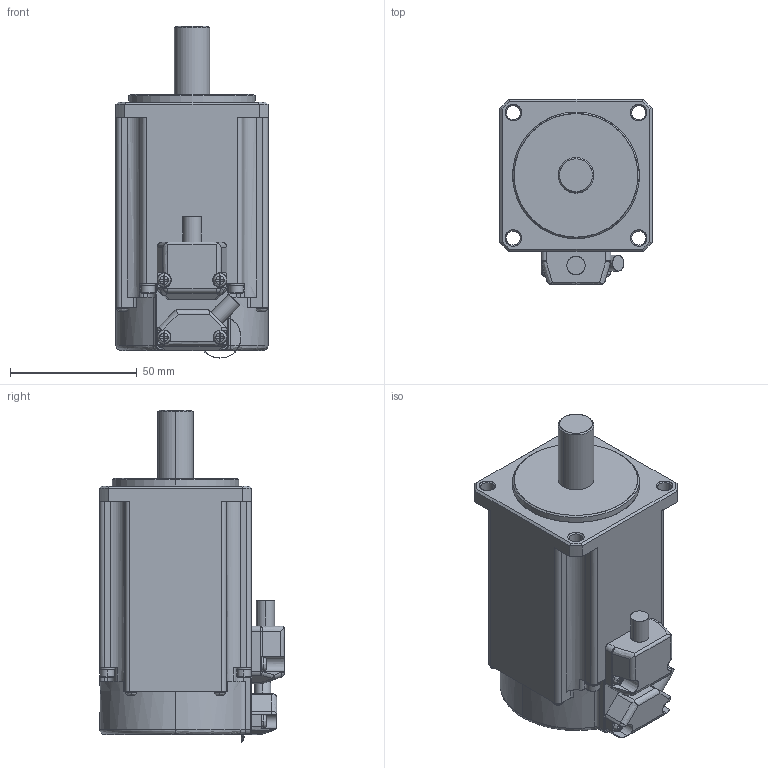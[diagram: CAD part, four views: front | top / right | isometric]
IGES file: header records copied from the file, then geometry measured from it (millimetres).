
Start section: SolidWorks IGES file using analytic representation for surfaces
Global section: file name: C:\Users\render\Documents\CAD Files\TamagawaMotors\TBL-iII-Series-14.5~80\TS4609\TS4609-N1000.IGS; native system: SolidWorks 2009; preprocessor: SolidWorks 2009; author: render; date: 100804.103145; units: millimetre
Bounding box: 60 x 73 x 131.04 mm (x, y, z)
Surface area: 33147.4 mm2 (no closed solid volume)
Topology: 0 solids, 0 shells, 647 faces, 5928 edges, 5907 vertices
Faces by surface type: bspline 329, revolution 318
